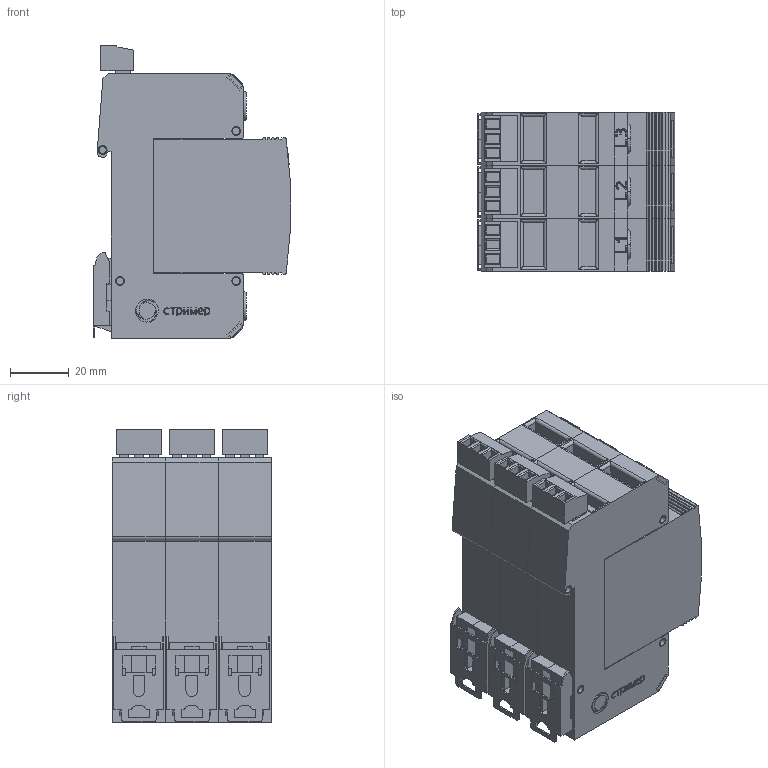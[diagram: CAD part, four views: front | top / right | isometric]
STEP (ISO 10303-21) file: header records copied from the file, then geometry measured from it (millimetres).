
FILE_DESCRIPTION(('TFLEX Exchange Step'),'2;1');
FILE_NAME('X2\041004400442\X0\.113_102.stp', '2022-07-15T15:58:01+03:00',('Pavel Oborin'),('Unknown organisation'),'TFLEX Exchange 2019.2','T-FLEX CAD','Unknown authorisation');
FILE_SCHEMA( ('AUTOMOTIVE_DESIGN { 1 0 10303 214 1 1 1 1 }') );
Length unit declared in the file: millimetre
Products named in the file (25): 0; Буква L3; Буква L2; Буква L1; Сигнализация:12; Сигнализация:9; Буква PEN:12; Буква PEN:11; Буква PEN:10; Буква PEN:9; Планка:3; ВНЕШНИЙ МОДУЛЬ 18 без ушек:3; Корпус 18 без ушей:36; Корпус 18 без ушей:35; Корпус 18 без ушей:34; Корпус 18 без ушей:33; Корпус 18 без ушей:32; Корпус 18 без ушей:31; Корпус 18 без ушей:30; Корпус 18 без ушей:29; Корпус 18 без ушей:28; Корпус 18 без ушей:27; Корпус 18 без ушей:26; Корпус 18 без ушей:25; Арт.113_102
Assembly tree (70 placements, depth 2):
  Арт.113_102
    0
    Буква L3
    Буква L2
    Буква L1
    Сигнализация:12  x9
    Сигнализация:9  x3
    Буква PEN:12  x3
    Буква PEN:11  x3
    Буква PEN:10  x3
    Буква PEN:9  x3
    Планка:3  x3
    ВНЕШНИЙ МОДУЛЬ 18 без ушек:3  x3
    Корпус 18 без ушей:36  x3
    Корпус 18 без ушей:35  x3
    Корпус 18 без ушей:34  x3
    Корпус 18 без ушей:33  x3
    Корпус 18 без ушей:32  x3
    Корпус 18 без ушей:31  x3
    Корпус 18 без ушей:30  x3
    Корпус 18 без ушей:29  x3
    Корпус 18 без ушей:28  x3
    Корпус 18 без ушей:27  x3
    Корпус 18 без ушей:26  x3
    Корпус 18 без ушей:25  x3
Bounding box: 66.98 x 54.1 x 99.65 mm (x, y, z)
Volume: 263268.3 mm3; surface area: 77064 mm2
Topology: 108 solids, 108 shells, 1963 faces, 4735 edges, 3051 vertices
Faces by surface type: plane 1171, cylinder 475, bspline 287, torus 21, cone 9
Full cylindrical faces by diameter (mm): 1.6 x9, 3 x9
Entity records: 38657 total; most frequent: CARTESIAN_POINT 19974, ORIENTED_EDGE 3810, DIRECTION 3438, EDGE_CURVE 1905, VECTOR 1288, LINE 1288, VERTEX_POINT 1217, AXIS2_PLACEMENT_3D 1075
